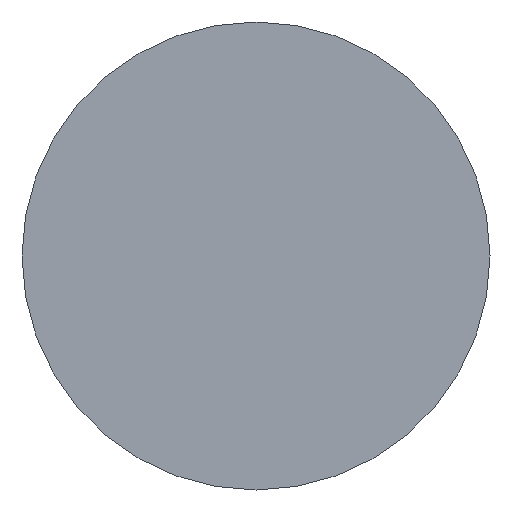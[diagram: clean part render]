
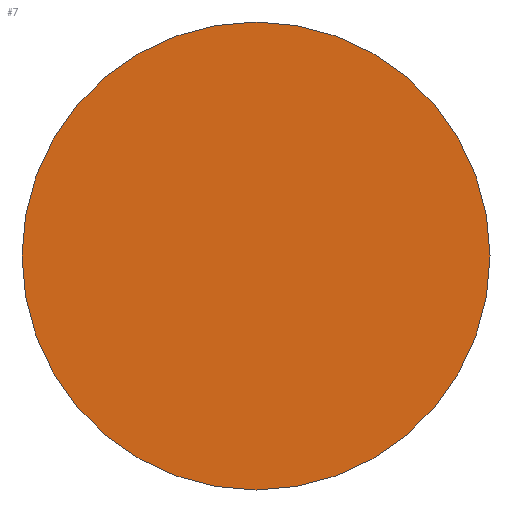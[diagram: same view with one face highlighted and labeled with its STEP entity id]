
A CAD part, left-side view. The second image highlights one B-rep face of the part: STEP entity #7.
In plain terms, the highlighted planar face has unit normal (-1, 0, 0).
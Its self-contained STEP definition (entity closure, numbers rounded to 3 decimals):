
#7 = ADVANCED_FACE ( 'NONE', ( #195 ), #79, .T. ) ;
#36 = DIRECTION ( 'NONE',  ( 1., 0., 0. ) ) ;
#79 = PLANE ( 'NONE',  #613 ) ;
#89 = ORIENTED_EDGE ( 'NONE', *, *, #344, .F. ) ;
#98 = AXIS2_PLACEMENT_3D ( 'NONE', #435, #36, #514 ) ;
#102 = DIRECTION ( 'NONE',  ( 0., 1., 0. ) ) ;
#103 = EDGE_LOOP ( 'NONE', ( #251, #89 ) ) ;
#151 = EDGE_CURVE ( 'NONE', #386, #345, #338, .T. ) ;
#195 = FACE_OUTER_BOUND ( 'NONE', #103, .T. ) ;
#251 = ORIENTED_EDGE ( 'NONE', *, *, #151, .F. ) ;
#275 = CARTESIAN_POINT ( 'NONE',  ( 0., -20., 0. ) ) ;
#338 = CIRCLE ( 'NONE', #98, 20. ) ;
#344 = EDGE_CURVE ( 'NONE', #345, #386, #700, .T. ) ;
#345 = VERTEX_POINT ( 'NONE', #275 ) ;
#346 = CARTESIAN_POINT ( 'NONE',  ( 0., 20., 0. ) ) ;
#386 = VERTEX_POINT ( 'NONE', #346 ) ;
#397 = CARTESIAN_POINT ( 'NONE',  ( 0., 0., 0. ) ) ;
#435 = CARTESIAN_POINT ( 'NONE',  ( 0., 0., 0. ) ) ;
#472 = AXIS2_PLACEMENT_3D ( 'NONE', #397, #532, #102 ) ;
#514 = DIRECTION ( 'NONE',  ( 0., 1., 0. ) ) ;
#532 = DIRECTION ( 'NONE',  ( 1., 0., 0. ) ) ;
#537 = CARTESIAN_POINT ( 'NONE',  ( 0., 0., 0. ) ) ;
#547 = DIRECTION ( 'NONE',  ( 0., -1., 0. ) ) ;
#598 = DIRECTION ( 'NONE',  ( -1., 0., 0. ) ) ;
#613 = AXIS2_PLACEMENT_3D ( 'NONE', #537, #598, #547 ) ;
#700 = CIRCLE ( 'NONE', #472, 20. ) ;
